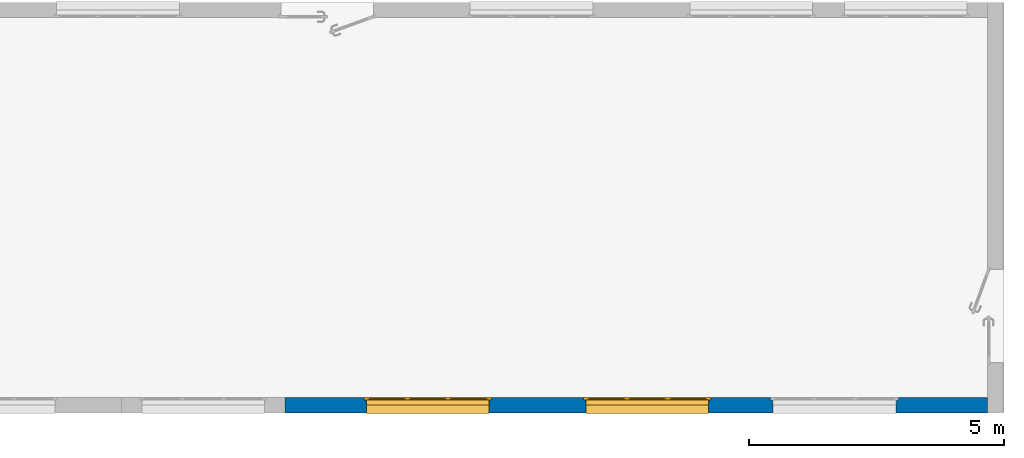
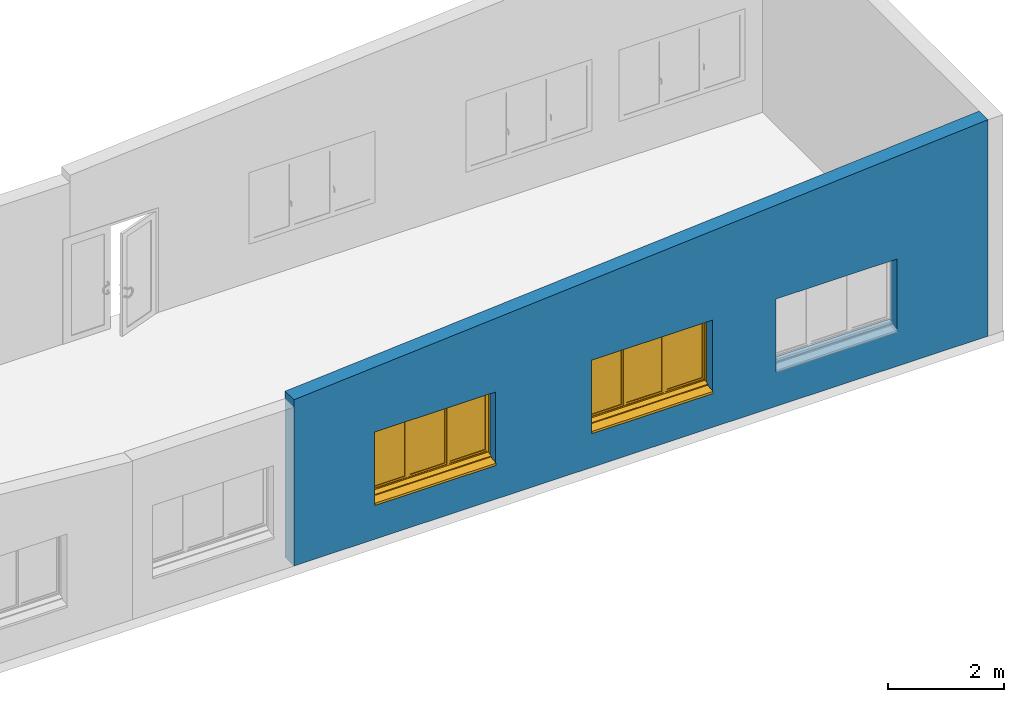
# One storey, part 5 of 8: 2 windows, 1 wall, 3 openings.
"""IFC2X3 building model written with IfcOpenShell, lengths in metres."""

import ifcopenshell
import ifcopenshell.guid

model = None  # the IFC model being written
_history = None  # IfcOwnerHistory: only IFC2X3 demands one
_inside = {}  # id of a spatial element -> (the spatial element, [elements in it])
_under = {}  # id of a project, library or spatial element -> (it, [spatial elements below it])
_declared = {}  # id of a project -> (the project, [libraries it declares])
_typed = {}  # id of a type object -> (the type object, [elements of that type])
_made_of = {}  # id of a material, layer set ... -> (it, [elements and type objects made of it])


def new_model(schema):
    """Start an empty IFC model of exactly this schema.

    Asked for "IFC4X3", IfcOpenShell would pick the latest addendum, in which some entities
    have other attributes; the version numbers below select the first issue.
    IFC2X3 requires an IfcOwnerHistory on every rooted entity: one is made here for all.
    """
    global model, _history
    if schema == "IFC4X3":
        model = ifcopenshell.file(schema_version=(4, 3, 0, 0))
    else:
        model = ifcopenshell.file(schema=schema)
    _inside.clear()
    _under.clear()
    _declared.clear()
    _typed.clear()
    _made_of.clear()
    _history = None
    if model.schema == "IFC2X3":
        org = make("IfcOrganization", Name="unknown")
        user = make(
            "IfcPersonAndOrganization",
            ThePerson=make("IfcPerson", FamilyName="unknown"),
            TheOrganization=org,
        )
        app = make(
            "IfcApplication",
            ApplicationDeveloper=org,
            Version="unknown",
            ApplicationFullName="unknown",
            ApplicationIdentifier="unknown",
        )
        _history = make(
            "IfcOwnerHistory",
            OwningUser=user,
            OwningApplication=app,
            ChangeAction="ADDED",
            CreationDate=0,
        )
    return model


def make(cls, **values):
    """One entity of the class cls with the attributes given. An attribute that is None is left unset."""
    return model.create_entity(
        cls, **{name: value for name, value in values.items() if value is not None}
    )


def entity(cls, *values):
    """Any entity or typed value of the class cls, its attributes in the order of the schema. None: left unset."""
    e = model.create_entity(cls)
    for i, value in enumerate(values):
        if value is not None:
            e[i] = value
    return e


def rooted(cls, **values):
    """An entity with a GlobalId (a new one), such as an element, a storey or a relation."""
    return make(cls, GlobalId=ifcopenshell.guid.new(), OwnerHistory=_history, **values)


def si_unit(unit_type, name, prefix=None):
    """IfcSIUnit, for example si_unit("LENGTHUNIT", "METRE", prefix="MILLI")."""
    return make("IfcSIUnit", UnitType=unit_type, Prefix=prefix, Name=name)


def converted_unit(unit_type, name, factor, base, dimensions=None, offset=None):
    """IfcConversionBasedUnit, such as the inch: factor (a typed value) times the base unit."""
    return make(
        "IfcConversionBasedUnit"
        if offset is None
        else "IfcConversionBasedUnitWithOffset",
        ConversionOffset=offset,
        Dimensions=None
        if dimensions is None
        else entity("IfcDimensionalExponents", *dimensions),
        UnitType=unit_type,
        Name=name,
        ConversionFactor=make(
            "IfcMeasureWithUnit", ValueComponent=factor, UnitComponent=base
        ),
    )


def derived_unit(unit_type, elements):
    """IfcDerivedUnit: a product of units, each with its exponent."""
    return make(
        "IfcDerivedUnit",
        Elements=[
            make("IfcDerivedUnitElement", Unit=unit, Exponent=power)
            for unit, power in elements
        ],
        UnitType=unit_type,
    )


def assignment(units):
    """IfcUnitAssignment: the units of a project."""
    return None if units is None else make("IfcUnitAssignment", Units=units)


def point(xyz):
    """IfcCartesianPoint."""
    return None if xyz is None else make("IfcCartesianPoint", Coordinates=xyz)


def direction(xyz):
    """IfcDirection."""
    return None if xyz is None else make("IfcDirection", DirectionRatios=xyz)


def frame(location, z_axis=None, x_axis=None):
    """IfcAxis2Placement3D, a coordinate frame: its origin and axes. An axis left out is left unset."""
    return make(
        "IfcAxis2Placement3D",
        Location=point(location),
        Axis=direction(z_axis),
        RefDirection=direction(x_axis),
    )


def frame_2d(location, x_axis=None):
    """IfcAxis2Placement2D, a coordinate frame in the plane: its origin and x axis."""
    return make(
        "IfcAxis2Placement2D", Location=point(location), RefDirection=direction(x_axis)
    )


def origin():
    """The frame at (0, 0, 0) with its axes left unset."""
    return frame((0.0, 0.0, 0.0))


def place(relative_to, where):
    """IfcLocalPlacement: puts the frame where relative to a parent placement (None: the world)."""
    return make(
        "IfcLocalPlacement", PlacementRelTo=relative_to, RelativePlacement=where
    )


def context(
    kind, dimensions, precision=None, world=None, true_north=None, identifier=None
):
    """IfcGeometricRepresentationContext, for example the 3D "Model" context."""
    return make(
        "IfcGeometricRepresentationContext",
        ContextIdentifier=identifier,
        ContextType=kind,
        CoordinateSpaceDimension=dimensions,
        Precision=precision,
        WorldCoordinateSystem=world,
        TrueNorth=true_north,
    )


def subcontext(parent, identifier, kind, view, scale=None):
    """IfcGeometricRepresentationSubContext, for example "Body" below "Model"."""
    return make(
        "IfcGeometricRepresentationSubContext",
        ContextIdentifier=identifier,
        ContextType=kind,
        ParentContext=parent,
        TargetScale=scale,
        TargetView=view,
    )


def project(units=None, contexts=None):
    """IfcProject with its units and contexts."""
    return rooted(
        "IfcProject",
        Name="project",
        RepresentationContexts=contexts,
        UnitsInContext=assignment(units),
    )


def spatial(cls, under=None, at=None, **own):
    """A site, building, storey or space (cls), placed at a placement, below another one or the project."""
    s = rooted(cls, ObjectPlacement=at, **own)
    if under is not None:
        _under.setdefault(under.id(), (under, []))[1].append(s)
    return s


def polyline(points):
    """IfcPolyline through the points."""
    return make("IfcPolyline", Points=[point(p) for p in points])


def profile(cls, at=None, kind="AREA", **sizes):
    """A parametric profile (cls). Its sizes go by their IFC names, for example OverallWidth=200.0."""
    return make(cls, ProfileType=kind, Position=at, **sizes)


def rectangle(**sizes):
    """IfcRectangleProfileDef."""
    return profile("IfcRectangleProfileDef", **sizes)


def extrude(swept, where, along, depth):
    """IfcExtrudedAreaSolid: the profile swept, set in the frame where, extruded along a direction by depth."""
    return make(
        "IfcExtrudedAreaSolid",
        SweptArea=swept,
        Position=where,
        ExtrudedDirection=direction(along),
        Depth=depth,
    )


def clip(a, b, op="DIFFERENCE"):
    """IfcBooleanClippingResult: the solid a cut by the half space b."""
    return make(
        "IfcBooleanClippingResult", Operator=op, FirstOperand=a, SecondOperand=b
    )


def bounded_halfspace(plane, agree, where, boundary):
    """IfcPolygonalBoundedHalfSpace: a half space limited to a polygon's prism."""
    return make(
        "IfcPolygonalBoundedHalfSpace",
        BaseSurface=make("IfcPlane", Position=plane),
        AgreementFlag=agree,
        Position=where,
        PolygonalBoundary=boundary,
    )


def faces_of(points, faces, orient=None, outer=None):
    """IfcFace entities. A face is a list of loops; a loop is a list of indices into points, from 0.

    orient and outer hold one flag for each loop. By default every Orientation is true, the
    first loop of a face is its IfcFaceOuterBound and the others are IfcFaceBound.
    """
    made = []
    for i, loops in enumerate(faces):
        bounds = []
        for j, loop in enumerate(loops):
            is_outer = j == 0 if outer is None else outer[i][j]
            bounds.append(
                make(
                    "IfcFaceOuterBound" if is_outer else "IfcFaceBound",
                    Bound=make("IfcPolyLoop", Polygon=[points[k] for k in loop]),
                    Orientation=True if orient is None else orient[i][j],
                )
            )
        made.append(make("IfcFace", Bounds=bounds))
    return made


def faceted_brep(points, faces, orient=None, outer=None, voids=None):
    """IfcFacetedBrep: a solid bounded by flat faces; with voids (closed shells), ...WithVoids."""
    shared = [point(p) for p in points]
    hull = make("IfcClosedShell", CfsFaces=faces_of(shared, faces, orient, outer))
    if voids is None:
        return make("IfcFacetedBrep", Outer=hull)
    return make(
        "IfcFacetedBrepWithVoids",
        Outer=hull,
        Voids=[
            make(cls, CfsFaces=faces_of(shared, fs, o, b)) for cls, fs, o, b in voids
        ],
    )


def shape(context_of_items, identifier, shape_type, items):
    """IfcShapeRepresentation: the items that make up one representation, for example the "Body"."""
    return make(
        "IfcShapeRepresentation",
        ContextOfItems=context_of_items,
        RepresentationIdentifier=identifier,
        RepresentationType=shape_type,
        Items=items,
    )


def source(mapping_origin, context_of_items, identifier, shape_type, items):
    """IfcRepresentationMap: a shape defined once, which mapped items show again and again."""
    return make(
        "IfcRepresentationMap",
        MappingOrigin=mapping_origin,
        MappedRepresentation=shape(context_of_items, identifier, shape_type, items),
    )


def transform(
    local_origin,
    x_axis=None,
    y_axis=None,
    z_axis=None,
    scale=None,
    scale2=None,
    scale3=None,
    uniform=True,
):
    """IfcCartesianTransformationOperator3D, or its non-uniform kind. x_axis, y_axis, z_axis: its Axis1, 2, 3."""
    if uniform:
        return make(
            "IfcCartesianTransformationOperator3D",
            Axis1=direction(x_axis),
            Axis2=direction(y_axis),
            LocalOrigin=point(local_origin),
            Scale=scale,
            Axis3=direction(z_axis),
        )
    return make(
        "IfcCartesianTransformationOperator3DnonUniform",
        Axis1=direction(x_axis),
        Axis2=direction(y_axis),
        LocalOrigin=point(local_origin),
        Scale=scale,
        Axis3=direction(z_axis),
        Scale2=scale2,
        Scale3=scale3,
    )


def mapped(mapping_source, mapping_target):
    """IfcMappedItem: shows the shape of a source again, moved by a transform."""
    return make(
        "IfcMappedItem", MappingSource=mapping_source, MappingTarget=mapping_target
    )


def material(Name=None, Category=None):
    """IfcMaterial."""
    return make("IfcMaterial", Name=Name, Category=Category)


def material_list(materials):
    """IfcMaterialList."""
    return make("IfcMaterialList", Materials=materials)


def layer(
    of_material, thickness, ventilated=None, Name=None, Category=None, Priority=None
):
    """IfcMaterialLayer: one layer of a wall or slab, of a material (None: an air gap)."""
    return make(
        "IfcMaterialLayer",
        Material=of_material,
        LayerThickness=thickness,
        IsVentilated=ventilated,
        Name=Name,
        Category=Category,
        Priority=Priority,
    )


def layer_set(layers, Name=None):
    """IfcMaterialLayerSet."""
    return make("IfcMaterialLayerSet", MaterialLayers=layers, LayerSetName=Name)


def layer_usage(for_layer_set, set_direction, sense, offset, extent=None):
    """IfcMaterialLayerSetUsage: how a layer set lies in its element."""
    return make(
        "IfcMaterialLayerSetUsage",
        ForLayerSet=for_layer_set,
        LayerSetDirection=set_direction,
        DirectionSense=sense,
        OffsetFromReferenceLine=offset,
        ReferenceExtent=extent,
    )


def made_of(thing, what):
    """Note that an element or type object is made of a material, layer set ...; save() writes the relation."""
    if what is not None:
        _made_of.setdefault(what.id(), (what, []))[1].append(thing)
    return thing


def type_object(cls, material=None, **own):
    """A type object (cls), such as IfcWallType, which elements share."""
    return made_of(rooted(cls, **own), material)


def type_shapes(of_type, sources):
    """Give a type object the sources (RepresentationMaps) that its elements show as mapped items."""
    of_type.RepresentationMaps = sources


def element(
    cls,
    number,
    at=None,
    inside=None,
    cuts=None,
    type_object=None,
    material=None,
    context=None,
    identifier="Body",
    shape_type=None,
    held_by="IfcProductDefinitionShape",
    body=None,
    shapes=None,
    **own,
):
    """One element of the class cls, such as IfcWall. Its Tag is "e" and its number.

    at: its placement. inside: the storey or other place that contains it. cuts: it is an
    opening in that element (IfcRelVoidsElement). A single representation is given by context,
    identifier, shape_type and body (its items); several are given by shapes. held_by: the class
    of the entity that holds the representations. save() writes the other relations.
    """
    e = rooted(cls, Tag="e%d" % number, ObjectPlacement=at, **own)
    if body is not None:
        shapes = [shape(context, identifier, shape_type, body)]
    if shapes is not None:
        e.Representation = make(held_by, Representations=shapes)
    if inside is not None:
        _inside.setdefault(inside.id(), (inside, []))[1].append(e)
    if cuts is not None:
        rooted(
            "IfcRelVoidsElement", RelatingBuildingElement=cuts, RelatedOpeningElement=e
        )
    if type_object is not None:
        _typed.setdefault(type_object.id(), (type_object, []))[1].append(e)
    return made_of(e, material)


def fill(opening, filler):
    """IfcRelFillsElement: the door or window that sits in an opening."""
    return rooted(
        "IfcRelFillsElement",
        RelatingOpeningElement=opening,
        RelatedBuildingElement=filler,
    )


def aggregate(whole, parts):
    """IfcRelAggregates: a whole, such as a stair, and the parts it consists of."""
    return rooted("IfcRelAggregates", RelatingObject=whole, RelatedObjects=parts)


def save(model, path):
    """Write the relations noted so far, then the file.

    IfcRelAggregates (storeys below a building ...), IfcRelContainedInSpatialStructure (elements
    in a storey), IfcRelDefinesByType, IfcRelAssociatesMaterial and IfcRelDeclares: one each for
    every whole, place, type object, material and project.
    """
    for whole, parts in _under.values():
        aggregate(whole, parts)
    for where, things in _inside.values():
        rooted(
            "IfcRelContainedInSpatialStructure",
            RelatedElements=things,
            RelatingStructure=where,
        )
    for kind, things in _typed.values():
        rooted("IfcRelDefinesByType", RelatedObjects=things, RelatingType=kind)
    for what, things in _made_of.values():
        rooted("IfcRelAssociatesMaterial", RelatedObjects=things, RelatingMaterial=what)
    for by, libraries in _declared.values():
        rooted("IfcRelDeclares", RelatingContext=by, RelatedDefinitions=libraries)
    model.write(path)


model = new_model("IFC2X3")

# Units and contexts
model_context = context("Model", 3, precision=1e-05, world=origin(), true_north=direction((6.12303176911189e-17, 1.0)))
body_context = subcontext(model_context, "Body", "Model", "MODEL_VIEW")
ifc_project = project(units=[si_unit("LENGTHUNIT", "METRE"), si_unit("AREAUNIT", "SQUARE_METRE"), si_unit("VOLUMEUNIT", "CUBIC_METRE"), converted_unit("PLANEANGLEUNIT", "DEGREE", entity("IfcRatioMeasure", 0.0174532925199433), si_unit("PLANEANGLEUNIT", "RADIAN"), dimensions=[0, 0, 0, 0, 0, 0, 0]), si_unit("MASSUNIT", "GRAM", prefix="KILO"), derived_unit("MASSDENSITYUNIT", [(si_unit("MASSUNIT", "GRAM", prefix="KILO"), 1), (si_unit("LENGTHUNIT", "METRE"), -3)]), si_unit("TIMEUNIT", "SECOND"), si_unit("FREQUENCYUNIT", "HERTZ"), si_unit("THERMODYNAMICTEMPERATUREUNIT", "DEGREE_CELSIUS"), derived_unit("THERMALTRANSMITTANCEUNIT", [(si_unit("MASSUNIT", "GRAM", prefix="KILO"), 1), (si_unit("THERMODYNAMICTEMPERATUREUNIT", "KELVIN"), -1), (si_unit("TIMEUNIT", "SECOND"), -3)]), derived_unit("VOLUMETRICFLOWRATEUNIT", [(si_unit("LENGTHUNIT", "METRE"), 3), (si_unit("TIMEUNIT", "SECOND"), -1)]), si_unit("ELECTRICCURRENTUNIT", "AMPERE"), si_unit("ELECTRICVOLTAGEUNIT", "VOLT"), si_unit("POWERUNIT", "WATT"), si_unit("FORCEUNIT", "NEWTON", prefix="KILO"), si_unit("ILLUMINANCEUNIT", "LUX"), si_unit("LUMINOUSFLUXUNIT", "LUMEN"), si_unit("LUMINOUSINTENSITYUNIT", "CANDELA"), derived_unit("USERDEFINED", [(si_unit("MASSUNIT", "GRAM", prefix="KILO"), -1), (si_unit("LENGTHUNIT", "METRE"), -2), (si_unit("TIMEUNIT", "SECOND"), 3), (si_unit("LUMINOUSFLUXUNIT", "LUMEN"), 1)]), derived_unit("LINEARVELOCITYUNIT", [(si_unit("LENGTHUNIT", "METRE"), 1), (si_unit("TIMEUNIT", "SECOND"), -1)]), si_unit("PRESSUREUNIT", "PASCAL"), derived_unit("USERDEFINED", [(si_unit("LENGTHUNIT", "METRE"), -2), (si_unit("MASSUNIT", "GRAM", prefix="KILO"), 1), (si_unit("TIMEUNIT", "SECOND"), -2)])], contexts=[model_context])

# Site, building, storey
site_placement = place(None, origin())
site = spatial("IfcSite", under=ifc_project, at=site_placement, Name="Default", CompositionType="ELEMENT")
building_placement = place(site_placement, origin())
building = spatial("IfcBuilding", under=site, at=building_placement, CompositionType="ELEMENT")
storey_placement = place(building_placement, frame((0.0, 0.0, 3.3)))
storey = spatial("IfcBuildingStorey", under=building, at=storey_placement, Name="Niveau 1", CompositionType="ELEMENT", Elevation=3.3)

# Wall, openings, windows
ifc_material_1 = material(Name="Maçonnerie - Voile BA")
ifc_layer_1 = layer(ifc_material_1, 0.18)
ifc_material_2 = material(Name="Maçonnerie - Isolant")
ifc_layer_2 = layer(ifc_material_2, 0.12)
ifc_layer_set = layer_set([ifc_layer_1, ifc_layer_2], Name="Mur de base:Ext. Voile BA 18 + Isolant 12")
ifc_layer_usage = layer_usage(ifc_layer_set, "AXIS2", "NEGATIVE", 0.15)
wall_type = type_object("IfcWallType", Name="Mur de base:Ext. Voile BA 18 + Isolant 12", PredefinedType="STANDARD", material=ifc_layer_set)
wall_placement = place(storey_placement, frame((12.280485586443, -4.88088141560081, 0.0), z_axis=(0.0, 0.0, 1.0), x_axis=(-1.0, 0.0, 0.0)))
wall = element("IfcWallStandardCase", 1, at=wall_placement, inside=storey, type_object=wall_type, material=ifc_layer_usage, Name="Mur de base:Ext. Voile BA 18 + Isolant 12", ObjectType="Mur de base:Ext. Voile BA 18 + Isolant 12", context=body_context, shape_type="Clipping", body=[
    clip(extrude(rectangle(XDim=13.7658292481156, YDim=0.3, at=frame_2d((6.88291462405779, -6.93889390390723e-17), x_axis=(-1.0, 0.0))), origin(), (0.0, 0.0, 1.0), 4.54000000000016), bounded_halfspace(frame((0.0, -0.150000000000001, 4.54000000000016), z_axis=(-0.0763909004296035, 0.0, -0.997077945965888), x_axis=(-0.997077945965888, 0.0, 0.0763909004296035)), True, frame((0.0, -0.150000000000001, 4.54000000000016)), polyline([(0.0, 0.0), (13.7658292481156, 0.0), (13.7658292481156, 0.3), (0.0, 0.3), (0.0, 0.0)]))),
])
opening_1_placement = place(wall_placement, frame((12.2158292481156, 0.499999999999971, 0.720000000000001), z_axis=(0.0, 0.0, 1.0), x_axis=(-1.0, 0.0, 0.0)))
opening_1 = element("IfcOpeningElement", 2, at=opening_1_placement, cuts=wall, Name="Mur de base:Ext. Voile BA 18 + Isolant 12", ObjectType="Opening", context=body_context, shape_type="Brep", body=[
    faceted_brep([(2.45, 0.57000000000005, 0.0800000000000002), (2.45, 0.549999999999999, 0.0800000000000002), (2.45, 0.549999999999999, 1.53), (2.45, 0.0, 1.53), (2.45, 0.0, 0.0), (2.45, 0.57000000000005, 0.0), (0.0500000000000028, 1.0, 0.0800000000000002), (0.0500000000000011, 0.650000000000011, 0.0800000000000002), (0.0500000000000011, 0.650000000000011, 1.53), (0.0500000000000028, 1.0, 1.53), (2.45, 1.0, 0.0800000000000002), (2.45, 0.650000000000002, 0.0800000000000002), (2.5, 0.650000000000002, 0.0800000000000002), (2.5, 0.600000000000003, 0.0800000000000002), (2.46, 0.600000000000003, 0.0800000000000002), (2.46, 0.549999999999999, 0.0800000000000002), (0.0500000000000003, 0.570000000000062, 0.0800000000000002), (0.0500000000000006, 0.550000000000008, 0.0800000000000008), (0.0399999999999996, 0.550000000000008, 0.0800000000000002), (0.0399999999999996, 0.600000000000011, 0.0800000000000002), (0.0, 0.600000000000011, 0.0800000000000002), (0.0, 0.65000000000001, 0.0800000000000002), (2.45, 1.0, 1.53), (0.0500000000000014, 0.550000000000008, 1.53), (0.049999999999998, 0.0, 1.53), (0.049999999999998, 0.0, 0.0), (0.0500000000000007, 0.570000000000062, 0.0), (2.5, 0.650000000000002, 1.58), (2.5, 0.600000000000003, 1.58), (0.0, 0.600000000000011, 1.58), (0.0400000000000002, 0.600000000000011, 1.54), (2.46, 0.600000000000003, 1.54), (2.46, 0.549999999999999, 1.54), (0.0399999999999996, 0.550000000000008, 1.54), (2.45, 0.650000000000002, 1.53), (0.0, 0.650000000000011, 1.58)], [[[0, 1, 2, 3, 4, 5]], [[6, 7, 8, 9]], [[10, 11, 12, 13, 14, 15, 1, 0, 16, 17, 18, 19, 20, 21, 7, 6]], [[10, 6, 9, 22]], [[3, 2, 23, 24]], [[3, 24, 25, 4]], [[4, 25, 26, 5]], [[5, 26, 16, 0]], [[12, 27, 28, 13]], [[13, 28, 29, 20, 19, 30, 31, 14]], [[14, 31, 32, 15]], [[15, 32, 33, 18, 17, 23, 2, 1]], [[11, 34, 8, 7, 21, 35, 27, 12]], [[27, 35, 29, 28]], [[30, 33, 32, 31]], [[29, 35, 21, 20]], [[19, 18, 33, 30]], [[9, 8, 34, 22]], [[24, 23, 17, 16, 26, 25]], [[22, 34, 11, 10]]]),
])
opening_2_placement = place(wall_placement, frame((7.91582924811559, 0.499999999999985, 0.720000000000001), z_axis=(0.0, 0.0, 1.0), x_axis=(-1.0, 0.0, 0.0)))
opening_2 = element("IfcOpeningElement", 3, at=opening_2_placement, cuts=wall, Name="Mur de base:Ext. Voile BA 18 + Isolant 12", ObjectType="Opening", context=body_context, shape_type="Brep", body=[
    faceted_brep([(2.45, 0.57000000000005, 0.0800000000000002), (2.45, 0.549999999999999, 0.0800000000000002), (2.45, 0.549999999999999, 1.53), (2.45, 0.0, 1.53), (2.45, 0.0, 0.0), (2.45, 0.57000000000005, 0.0), (0.0500000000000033, 1.0, 0.0800000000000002), (0.0500000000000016, 0.650000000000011, 0.0800000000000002), (0.0500000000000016, 0.650000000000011, 1.53), (0.0500000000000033, 1.0, 1.53), (2.45, 1.0, 0.0800000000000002), (2.45, 0.650000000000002, 0.0800000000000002), (2.5, 0.650000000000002, 0.0800000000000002), (2.5, 0.600000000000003, 0.0800000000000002), (2.46, 0.600000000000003, 0.0800000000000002), (2.46, 0.549999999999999, 0.0800000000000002), (0.0500000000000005, 0.570000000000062, 0.0800000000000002), (0.0500000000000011, 0.550000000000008, 0.0800000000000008), (0.0400000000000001, 0.550000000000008, 0.0800000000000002), (0.0400000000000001, 0.600000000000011, 0.0800000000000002), (0.0, 0.600000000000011, 0.0800000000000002), (0.0, 0.65000000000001, 0.0800000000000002), (2.45, 1.0, 1.53), (0.0500000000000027, 0.550000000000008, 1.53), (0.0499999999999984, 0.0, 1.53), (0.0499999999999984, 0.0, 0.0), (0.0500000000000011, 0.570000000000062, 0.0), (2.5, 0.650000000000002, 1.58), (2.5, 0.600000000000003, 1.58), (0.0, 0.600000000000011, 1.58), (0.0400000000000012, 0.600000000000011, 1.54), (2.46, 0.600000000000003, 1.54), (2.46, 0.549999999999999, 1.54), (0.0400000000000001, 0.550000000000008, 1.54), (2.45, 0.650000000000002, 1.53), (0.0, 0.650000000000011, 1.58)], [[[0, 1, 2, 3, 4, 5]], [[6, 7, 8, 9]], [[10, 11, 12, 13, 14, 15, 1, 0, 16, 17, 18, 19, 20, 21, 7, 6]], [[10, 6, 9, 22]], [[3, 2, 23, 24]], [[3, 24, 25, 4]], [[4, 25, 26, 5]], [[5, 26, 16, 0]], [[12, 27, 28, 13]], [[13, 28, 29, 20, 19, 30, 31, 14]], [[14, 31, 32, 15]], [[15, 32, 33, 18, 17, 23, 2, 1]], [[11, 34, 8, 7, 21, 35, 27, 12]], [[27, 35, 29, 28]], [[30, 33, 32, 31]], [[29, 35, 21, 20]], [[19, 18, 33, 30]], [[9, 8, 34, 22]], [[24, 23, 17, 16, 26, 25]], [[22, 34, 11, 10]]]),
])
opening_3_placement = place(wall_placement, frame((4.25, 0.499999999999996, 0.720000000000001), z_axis=(0.0, 0.0, 1.0), x_axis=(-1.0, 0.0, 0.0)))
element("IfcOpeningElement", 4, at=opening_3_placement, cuts=wall, Name="Mur de base:Ext. Voile BA 18 + Isolant 12", ObjectType="Opening", context=body_context, shape_type="Brep", body=[
    faceted_brep([(2.45, 0.57000000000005, 0.0800000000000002), (2.45, 0.549999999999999, 0.0800000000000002), (2.45, 0.549999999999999, 1.53), (2.45, 0.0, 1.53), (2.45, 0.0, 0.0), (2.45, 0.57000000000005, 0.0), (0.0500000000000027, 1.0, 0.0800000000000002), (0.0500000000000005, 0.650000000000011, 0.0800000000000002), (0.0500000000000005, 0.650000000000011, 1.53), (0.0500000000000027, 1.0, 1.53), (2.45, 1.0, 0.0800000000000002), (2.45, 0.650000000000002, 0.0800000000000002), (2.5, 0.650000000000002, 0.0800000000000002), (2.5, 0.600000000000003, 0.0800000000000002), (2.46, 0.600000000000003, 0.0800000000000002), (2.46, 0.549999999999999, 0.0800000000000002), (0.0500000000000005, 0.570000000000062, 0.0800000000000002), (0.0500000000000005, 0.550000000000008, 0.0800000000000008), (0.0399999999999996, 0.550000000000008, 0.0800000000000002), (0.0399999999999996, 0.600000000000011, 0.0800000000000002), (0.0, 0.600000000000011, 0.0800000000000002), (0.0, 0.65000000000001, 0.0800000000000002), (2.45, 1.0, 1.53), (0.0500000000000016, 0.550000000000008, 1.53), (0.0499999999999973, 0.0, 1.53), (0.0499999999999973, 0.0, 0.0), (0.0500000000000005, 0.570000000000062, 0.0), (2.5, 0.650000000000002, 1.58), (2.5, 0.600000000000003, 1.58), (0.0, 0.600000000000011, 1.58), (0.0399999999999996, 0.600000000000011, 1.54), (2.46, 0.600000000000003, 1.54), (2.46, 0.549999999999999, 1.54), (0.0399999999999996, 0.550000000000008, 1.54), (2.45, 0.650000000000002, 1.53), (0.0, 0.650000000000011, 1.58)], [[[0, 1, 2, 3, 4, 5]], [[6, 7, 8, 9]], [[10, 11, 12, 13, 14, 15, 1, 0, 16, 17, 18, 19, 20, 21, 7, 6]], [[10, 6, 9, 22]], [[3, 2, 23, 24]], [[3, 24, 25, 4]], [[4, 25, 26, 5]], [[5, 26, 16, 0]], [[12, 27, 28, 13]], [[13, 28, 29, 20, 19, 30, 31, 14]], [[14, 31, 32, 15]], [[15, 32, 33, 18, 17, 23, 2, 1]], [[11, 34, 8, 7, 21, 35, 27, 12]], [[27, 35, 29, 28]], [[30, 33, 32, 31]], [[29, 35, 21, 20]], [[19, 18, 33, 30]], [[9, 8, 34, 22]], [[24, 23, 17, 16, 26, 25]], [[22, 34, 11, 10]]]),
])
ifc_material_3 = material(Name="Fenêtre - Poignée")
ifc_material_4 = material(Name="Fenêtre - Appui")
ifc_material_5 = material(Name="Fenêtre - Cadre")
ifc_material_6 = material(Name="Fenêtre - Vitrage")
ifc_material_list_1 = material_list([ifc_material_3, ifc_material_4, ifc_material_5, ifc_material_6])
ifc_material_list_2 = material_list([ifc_material_3, ifc_material_4, ifc_material_5, ifc_material_6])
window_style = type_object("IfcWindowStyle", Name="2.40m x 1.45m - Appui Béton", ConstructionType="NOTDEFINED", OperationType="TRIPLE_PANEL_VERTICAL", ParameterTakesPrecedence=False, Sizeable=False, material=ifc_material_list_2)
shared_shape = source(origin(), body_context, "Body", "Brep", [
    faceted_brep([(0.83064600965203, -0.656000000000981, 0.702033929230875), (0.83203392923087, -0.656000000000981, 0.700646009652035), (0.83203392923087, -0.656000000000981, 0.68933230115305), (0.830667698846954, -0.656000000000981, 0.687966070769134), (0.819332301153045, -0.656000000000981, 0.687966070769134), (0.817966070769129, -0.656000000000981, 0.68933230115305), (0.817966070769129, -0.656000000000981, 0.700646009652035), (0.819353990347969, -0.656000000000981, 0.702033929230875), (0.83064600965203, -0.66891354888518, 0.702033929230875), (0.83203392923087, -0.668338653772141, 0.700646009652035), (0.83203392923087, -0.681646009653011, 0.687338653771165), (0.83203392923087, -0.681646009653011, 0.600000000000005), (0.83203392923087, -0.670332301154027, 0.600000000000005), (0.83203392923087, -0.670332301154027, 0.68265236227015), (0.83203392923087, -0.663652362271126, 0.68933230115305), (0.830667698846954, -0.663086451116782, 0.687966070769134), (0.819332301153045, -0.663086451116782, 0.687966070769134), (0.817966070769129, -0.663652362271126, 0.68933230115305), (0.817966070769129, -0.670332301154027, 0.68265236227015), (0.817966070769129, -0.670332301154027, 0.600000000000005), (0.817966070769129, -0.681646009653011, 0.600000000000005), (0.817966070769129, -0.681646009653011, 0.687338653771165), (0.817966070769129, -0.668338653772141, 0.700646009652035), (0.81935399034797, -0.66891354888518, 0.702033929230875), (0.83064600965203, -0.683033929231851, 0.687913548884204), (0.830667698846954, -0.668966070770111, 0.682086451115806), (0.819332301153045, -0.668966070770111, 0.682086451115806), (0.819353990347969, -0.683033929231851, 0.687913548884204), (0.83064600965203, -0.683033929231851, 0.600000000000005), (0.819353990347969, -0.683033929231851, 0.600000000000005), (0.819332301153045, -0.668966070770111, 0.600000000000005), (0.830667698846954, -0.668966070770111, 0.600000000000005)], [[[0, 1, 2, 3, 4, 5, 6, 7]], [[1, 0, 8, 9]], [[2, 1, 9, 10, 11, 12, 13, 14]], [[3, 2, 14, 15]], [[4, 3, 15, 16]], [[5, 4, 16, 17]], [[6, 5, 17, 18, 19, 20, 21, 22]], [[7, 6, 22, 23]], [[0, 7, 23, 8]], [[9, 8, 24, 10]], [[15, 14, 13, 25]], [[16, 15, 25, 26]], [[17, 16, 26, 18]], [[23, 22, 21, 27]], [[8, 23, 27, 24]], [[28, 29, 20, 19, 30, 31, 12, 11]], [[10, 24, 28, 11]], [[25, 13, 12, 31]], [[26, 25, 31, 30]], [[18, 26, 30, 19]], [[27, 21, 20, 29]], [[24, 27, 29, 28]]]),
    faceted_brep([(0.832000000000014, -0.656000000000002, 0.720000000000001), (0.817999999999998, -0.656000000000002, 0.720000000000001), (0.812999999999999, -0.656000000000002, 0.715000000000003), (0.812999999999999, -0.656000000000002, 0.644999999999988), (0.817999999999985, -0.656000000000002, 0.640000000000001), (0.832000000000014, -0.656000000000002, 0.640000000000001), (0.837, -0.656000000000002, 0.644999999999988), (0.837, -0.656000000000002, 0.715000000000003), (0.832000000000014, -0.650000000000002, 0.720000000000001), (0.837, -0.650000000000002, 0.715000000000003), (0.837, -0.650000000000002, 0.644999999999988), (0.832000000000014, -0.650000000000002, 0.640000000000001), (0.817999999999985, -0.650000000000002, 0.640000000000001), (0.812999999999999, -0.650000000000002, 0.644999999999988), (0.812999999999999, -0.650000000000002, 0.715000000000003), (0.817999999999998, -0.650000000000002, 0.720000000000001)], [[[0, 1, 2, 3, 4, 5, 6, 7]], [[8, 9, 10, 11, 12, 13, 14, 15]], [[1, 0, 8, 15]], [[2, 1, 15, 14]], [[3, 2, 14, 13]], [[4, 3, 13, 12]], [[5, 4, 12, 11]], [[6, 5, 11, 10]], [[7, 6, 10, 9]], [[0, 7, 9, 8]]]),
    faceted_brep([(1.68064600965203, -0.656000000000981, 0.702033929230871), (1.68203392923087, -0.656000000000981, 0.700646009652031), (1.68203392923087, -0.656000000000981, 0.689332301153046), (1.68066769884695, -0.656000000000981, 0.68796607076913), (1.66933230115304, -0.656000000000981, 0.68796607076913), (1.66796607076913, -0.656000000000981, 0.689332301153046), (1.66796607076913, -0.656000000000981, 0.700646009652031), (1.66935399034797, -0.656000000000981, 0.702033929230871), (1.68064600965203, -0.66891354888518, 0.702033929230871), (1.68203392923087, -0.668338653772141, 0.700646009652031), (1.68203392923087, -0.681646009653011, 0.687338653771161), (1.68203392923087, -0.681646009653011, 0.600000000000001), (1.68203392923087, -0.670332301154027, 0.600000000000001), (1.68203392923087, -0.670332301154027, 0.682652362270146), (1.68203392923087, -0.663652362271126, 0.689332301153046), (1.68066769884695, -0.663086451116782, 0.68796607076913), (1.66933230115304, -0.663086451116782, 0.68796607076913), (1.66796607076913, -0.663652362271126, 0.689332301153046), (1.66796607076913, -0.670332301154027, 0.682652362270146), (1.66796607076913, -0.670332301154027, 0.600000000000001), (1.66796607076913, -0.681646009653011, 0.600000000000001), (1.66796607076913, -0.681646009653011, 0.687338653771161), (1.66796607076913, -0.668338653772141, 0.700646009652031), (1.66935399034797, -0.66891354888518, 0.702033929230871), (1.68064600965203, -0.683033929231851, 0.6879135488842), (1.68066769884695, -0.668966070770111, 0.682086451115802), (1.66933230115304, -0.668966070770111, 0.682086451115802), (1.66935399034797, -0.683033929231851, 0.6879135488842), (1.68064600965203, -0.683033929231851, 0.600000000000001), (1.66935399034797, -0.683033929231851, 0.600000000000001), (1.66933230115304, -0.668966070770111, 0.600000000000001), (1.68066769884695, -0.668966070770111, 0.600000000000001)], [[[0, 1, 2, 3, 4, 5, 6, 7]], [[1, 0, 8, 9]], [[2, 1, 9, 10, 11, 12, 13, 14]], [[3, 2, 14, 15]], [[4, 3, 15, 16]], [[5, 4, 16, 17]], [[6, 5, 17, 18, 19, 20, 21, 22]], [[7, 6, 22, 23]], [[0, 7, 23, 8]], [[9, 8, 24, 10]], [[15, 14, 13, 25]], [[16, 15, 25, 26]], [[17, 16, 26, 18]], [[23, 22, 21, 27]], [[8, 23, 27, 24]], [[28, 29, 20, 19, 30, 31, 12, 11]], [[10, 24, 28, 11]], [[25, 13, 12, 31]], [[26, 25, 31, 30]], [[18, 26, 30, 19]], [[27, 21, 20, 29]], [[24, 27, 29, 28]]]),
    faceted_brep([(1.68200000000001, -0.656000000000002, 0.719999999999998), (1.668, -0.656000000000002, 0.719999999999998), (1.663, -0.656000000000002, 0.714999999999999), (1.663, -0.656000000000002, 0.644999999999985), (1.66799999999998, -0.656000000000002, 0.639999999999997), (1.68200000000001, -0.656000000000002, 0.639999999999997), (1.687, -0.656000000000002, 0.644999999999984), (1.687, -0.656000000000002, 0.714999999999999), (1.68200000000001, -0.650000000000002, 0.719999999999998), (1.687, -0.650000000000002, 0.714999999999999), (1.687, -0.650000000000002, 0.644999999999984), (1.68200000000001, -0.650000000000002, 0.639999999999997), (1.66799999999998, -0.650000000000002, 0.639999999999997), (1.663, -0.650000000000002, 0.644999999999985), (1.663, -0.650000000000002, 0.714999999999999), (1.668, -0.650000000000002, 0.719999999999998)], [[[0, 1, 2, 3, 4, 5, 6, 7]], [[8, 9, 10, 11, 12, 13, 14, 15]], [[1, 0, 8, 15]], [[2, 1, 15, 14]], [[3, 2, 14, 13]], [[4, 3, 13, 12]], [[5, 4, 12, 11]], [[6, 5, 11, 10]], [[7, 6, 10, 9]], [[0, 7, 9, 8]]]),
    faceted_brep([(0.050000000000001, -0.569999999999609, 0.0799999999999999), (0.0500000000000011, -0.519999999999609, 0.0799999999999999), (0.0500000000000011, -0.519999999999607, 0.0650000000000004), (0.0500000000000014, -0.334999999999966, 0.0455557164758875), (0.0500000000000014, -0.334999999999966, 0.0), (0.050000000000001, -0.569999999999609, 0.0), (2.45, -0.569999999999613, 0.0799999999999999), (2.45, -0.569999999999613, 0.0), (2.45, -0.33499999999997, 0.0), (2.45, -0.33499999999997, 0.0455557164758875), (2.45, -0.519999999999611, 0.0650000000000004), (2.45, -0.519999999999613, 0.0799999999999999)], [[[0, 1, 2, 3, 4, 5]], [[6, 7, 8, 9, 10, 11]], [[1, 0, 6, 11]], [[2, 1, 11, 10]], [[3, 2, 10, 9]], [[4, 3, 9, 8]], [[5, 4, 8, 7]], [[0, 5, 7, 6]]]),
    faceted_brep([(1.65, -0.610000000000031, 1.53), (1.65, -0.650000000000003, 1.53), (1.65, -0.650000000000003, 0.13), (1.65, -0.610000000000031, 0.13), (0.849999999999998, -0.65, 0.13), (0.849999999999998, -0.610000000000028, 0.13), (0.849999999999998, -0.65, 1.53), (0.899999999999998, -0.65, 0.18), (0.899999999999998, -0.65, 1.48), (1.6, -0.650000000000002, 1.48), (1.6, -0.650000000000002, 0.18), (0.849999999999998, -0.610000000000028, 1.53), (1.6, -0.61000000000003, 0.179999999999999), (1.6, -0.61000000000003, 1.48), (0.899999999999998, -0.610000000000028, 1.48), (0.899999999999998, -0.610000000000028, 0.18)], [[[0, 1, 2, 3]], [[3, 2, 4, 5]], [[2, 1, 6, 4], [7, 8, 9, 10]], [[5, 4, 6, 11]], [[5, 11, 0, 3], [12, 13, 14, 15]], [[9, 13, 12, 10]], [[10, 12, 15, 7]], [[7, 15, 14, 8]], [[11, 6, 1, 0]], [[8, 14, 13, 9]]]),
    faceted_brep([(0.849999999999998, -0.610000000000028, 1.53), (0.849999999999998, -0.650000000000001, 1.53), (0.849999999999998, -0.650000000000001, 0.13), (0.849999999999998, -0.610000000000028, 0.13), (0.0499999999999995, -0.649999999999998, 0.13), (0.0499999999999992, -0.610000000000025, 0.13), (0.0499999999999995, -0.649999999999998, 1.53), (0.0999999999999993, -0.649999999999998, 0.18), (0.0999999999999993, -0.649999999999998, 1.48), (0.799999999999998, -0.650000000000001, 1.48), (0.799999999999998, -0.650000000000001, 0.18), (0.0499999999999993, -0.610000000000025, 1.53), (0.799999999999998, -0.610000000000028, 0.18), (0.799999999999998, -0.610000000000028, 1.48), (0.0999999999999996, -0.610000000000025, 1.48), (0.0999999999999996, -0.610000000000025, 0.18)], [[[0, 1, 2, 3]], [[3, 2, 4, 5]], [[2, 1, 6, 4], [7, 8, 9, 10]], [[5, 4, 6, 11]], [[5, 11, 0, 3], [12, 13, 14, 15]], [[9, 13, 12, 10]], [[10, 12, 15, 7]], [[7, 15, 14, 8]], [[11, 6, 1, 0]], [[8, 14, 13, 9]]]),
    faceted_brep([(1.7, -0.624000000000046, 0.18), (1.7, -0.624000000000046, 1.48), (2.4, -0.624000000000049, 1.48), (2.4, -0.624000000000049, 0.18), (1.7, -0.636000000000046, 0.18), (1.7, -0.636000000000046, 1.48), (2.4, -0.636000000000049, 1.48), (2.4, -0.636000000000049, 0.18)], [[[0, 1, 2, 3]], [[1, 0, 4, 5]], [[3, 2, 6, 7]], [[0, 3, 7, 4]], [[2, 1, 5, 6]], [[4, 7, 6, 5]]]),
    faceted_brep([(0.799999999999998, -0.624000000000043, 0.18), (0.799999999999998, -0.624000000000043, 1.48), (0.799999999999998, -0.636000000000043, 1.48), (0.799999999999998, -0.636000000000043, 0.18), (0.0999999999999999, -0.624000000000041, 0.18), (0.0999999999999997, -0.636000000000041, 0.18), (0.0999999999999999, -0.624000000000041, 1.48), (0.0999999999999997, -0.636000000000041, 1.48)], [[[0, 1, 2, 3]], [[4, 0, 3, 5]], [[6, 4, 5, 7]], [[7, 5, 3, 2]], [[1, 6, 7, 2]], [[6, 1, 0, 4]]]),
    faceted_brep([(1.6, -0.624000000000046, 0.18), (1.6, -0.624000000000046, 1.48), (1.6, -0.636000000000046, 1.48), (1.6, -0.636000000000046, 0.18), (0.899999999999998, -0.624000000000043, 0.18), (0.899999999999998, -0.636000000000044, 0.18), (0.899999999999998, -0.624000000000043, 1.48), (0.899999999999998, -0.636000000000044, 1.48)], [[[0, 1, 2, 3]], [[4, 0, 3, 5]], [[6, 4, 5, 7]], [[1, 6, 7, 2]], [[7, 5, 3, 2]], [[6, 1, 0, 4]]]),
    faceted_brep([(1.7, -0.610000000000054, 1.48), (1.7, -0.650000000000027, 1.48), (1.7, -0.650000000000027, 0.18), (1.7, -0.610000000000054, 0.18), (2.4, -0.650000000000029, 0.18), (2.4, -0.610000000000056, 0.18), (2.4, -0.650000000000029, 1.48), (2.45, -0.65000000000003, 0.13), (2.45, -0.65000000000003, 1.53), (1.65, -0.650000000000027, 1.53), (1.65, -0.650000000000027, 0.13), (2.4, -0.610000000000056, 1.48), (1.65, -0.610000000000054, 0.13), (1.65, -0.610000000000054, 1.53), (2.45, -0.610000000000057, 1.53), (2.45, -0.610000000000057, 0.13)], [[[0, 1, 2, 3]], [[3, 2, 4, 5]], [[2, 1, 6, 4], [7, 8, 9, 10]], [[5, 4, 6, 11]], [[5, 11, 0, 3], [12, 13, 14, 15]], [[9, 13, 12, 10]], [[10, 12, 15, 7]], [[7, 15, 14, 8]], [[11, 6, 1, 0]], [[8, 14, 13, 9]]], outer=[[True], [True], [False, True], [True], [False, True], [True], [True], [True], [True], [True]]),
    faceted_brep([(0.0, -0.650000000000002, 0.0799999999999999), (0.0, -0.600000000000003, 0.0799999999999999), (0.0499999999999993, -0.600000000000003, 0.0799999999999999), (0.0499999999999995, -0.51500000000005, 0.0800000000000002), (2.45, -0.515000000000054, 0.0799999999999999), (2.45, -0.600000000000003, 0.0800000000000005), (2.5, -0.600000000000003, 0.0799999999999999), (2.5, -0.650000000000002, 0.0799999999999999), (0.0, -0.650000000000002, 1.58), (0.0, -0.600000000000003, 1.58), (2.5, -0.600000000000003, 1.58), (2.45, -0.600000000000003, 0.119376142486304), (0.0499999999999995, -0.600000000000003, 0.119376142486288), (0.0649999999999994, -0.600000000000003, 1.515), (0.0649999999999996, -0.600000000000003, 0.145), (2.435, -0.600000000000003, 0.145), (2.435, -0.600000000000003, 1.515), (0.0499999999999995, -0.50500000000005, 0.0939209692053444), (0.0499999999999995, -0.50500000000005, 0.0749999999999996), (0.0499999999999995, -0.51500000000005, 0.0749999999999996), (2.45, -0.515000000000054, 0.0749999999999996), (2.45, -0.505000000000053, 0.0749999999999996), (2.45, -0.505000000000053, 0.0939209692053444), (2.5, -0.650000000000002, 1.58), (2.45, -0.650000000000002, 1.53), (2.45, -0.650000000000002, 0.13), (0.0499999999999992, -0.65, 0.13), (0.0499999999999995, -0.650000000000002, 1.53), (0.0649999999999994, -0.610000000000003, 1.515), (0.0649999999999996, -0.610000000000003, 0.145), (2.435, -0.610000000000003, 0.145), (2.435, -0.610000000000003, 1.515), (2.45, -0.610000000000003, 1.53), (0.0499999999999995, -0.610000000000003, 1.53), (0.0499999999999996, -0.610000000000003, 0.13), (2.45, -0.610000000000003, 0.13)], [[[0, 1, 2, 3, 4, 5, 6, 7]], [[1, 0, 8, 9]], [[1, 9, 10, 6, 5, 11, 12, 2], [13, 14, 15, 16]], [[12, 17, 18, 19, 3, 2]], [[3, 19, 20, 4]], [[4, 20, 21, 22, 11, 5]], [[6, 10, 23, 7]], [[0, 7, 23, 8], [24, 25, 26, 27]], [[13, 28, 29, 14]], [[29, 30, 15, 14]], [[31, 16, 15, 30]], [[17, 12, 11, 22]], [[32, 33, 34, 35], [28, 31, 30, 29]], [[34, 33, 27, 26]], [[26, 25, 35, 34]], [[24, 32, 35, 25]], [[18, 17, 22, 21]], [[19, 18, 21, 20]], [[13, 16, 31, 28]], [[33, 32, 24, 27]], [[10, 9, 8, 23]]]),
    faceted_brep([(0.0499999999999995, -0.550000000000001, 0.0799999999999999), (0.0499999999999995, -0.600000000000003, 0.0799999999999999), (0.039999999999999, -0.600000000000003, 0.0799999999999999), (0.039999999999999, -0.550000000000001, 0.0799999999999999), (0.0499999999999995, -0.550000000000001, 1.53), (0.0499999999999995, -0.600000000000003, 1.53), (2.45, -0.600000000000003, 1.53), (2.45, -0.600000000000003, 0.0799999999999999), (2.46, -0.600000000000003, 0.0800000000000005), (2.46, -0.600000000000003, 1.54), (0.039999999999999, -0.600000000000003, 1.54), (0.039999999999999, -0.550000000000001, 1.54), (2.46, -0.550000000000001, 1.54), (2.46, -0.550000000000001, 0.0799999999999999), (2.45, -0.550000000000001, 0.0800000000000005), (2.45, -0.550000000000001, 1.53)], [[[0, 1, 2, 3]], [[1, 0, 4, 5]], [[2, 1, 5, 6, 7, 8, 9, 10]], [[3, 2, 10, 11]], [[0, 3, 11, 12, 13, 14, 15, 4]], [[6, 15, 14, 7]], [[14, 13, 8, 7]], [[12, 9, 8, 13]], [[5, 4, 15, 6]], [[11, 10, 9, 12]]]),
    faceted_brep([(1.67, -0.602000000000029, 1.515), (1.63, -0.602000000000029, 1.515), (1.63, -0.610000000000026, 1.515), (1.67, -0.610000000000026, 1.515), (1.67, -0.602000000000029, 0.145), (1.63, -0.602000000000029, 0.145), (1.63, -0.610000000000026, 0.145), (1.67, -0.610000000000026, 0.145)], [[[0, 1, 2, 3]], [[1, 0, 4, 5]], [[2, 1, 5, 6]], [[3, 2, 6, 7]], [[0, 3, 7, 4]], [[4, 7, 6, 5]]]),
    faceted_brep([(0.870000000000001, -0.602000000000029, 0.145), (0.870000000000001, -0.610000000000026, 0.145), (0.83, -0.610000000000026, 0.145), (0.83, -0.602000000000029, 0.145), (0.83, -0.602000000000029, 1.515), (0.870000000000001, -0.602000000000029, 1.515), (0.83, -0.610000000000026, 1.515), (0.870000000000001, -0.610000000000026, 1.515)], [[[0, 1, 2, 3]], [[4, 5, 0, 3]], [[6, 4, 3, 2]], [[7, 6, 2, 1]], [[5, 7, 1, 0]], [[5, 4, 6, 7]]]),
])
type_shapes(window_style, [shared_shape])
window_1_placement = place(opening_1_placement, frame((2.5, 0.0, 0.0), z_axis=(0.0, 0.0, 1.0), x_axis=(-1.0, 0.0, 0.0)))
window_1 = element("IfcWindow", 5, at=window_1_placement, inside=storey, type_object=window_style, material=ifc_material_list_1, Name="3 Vantaux - Droits:2.40m x 1.45m - Appui Béton", ObjectType="2.40m x 1.45m - Appui Béton", OverallHeight=1.58, OverallWidth=2.5, context=body_context, shape_type="MappedRepresentation", body=[
    mapped(shared_shape, transform((0.0, 0.0, 0.0), scale=1.0)),
])
fill(opening_1, window_1)
ifc_material_list_3 = material_list([ifc_material_3, ifc_material_4, ifc_material_5, ifc_material_6])
window_2_placement = place(opening_2_placement, frame((2.5, 0.0, 0.0), z_axis=(0.0, 0.0, 1.0), x_axis=(-1.0, 0.0, 0.0)))
window_2 = element("IfcWindow", 6, at=window_2_placement, inside=storey, type_object=window_style, material=ifc_material_list_3, Name="3 Vantaux - Droits:2.40m x 1.45m - Appui Béton", ObjectType="2.40m x 1.45m - Appui Béton", OverallHeight=1.58, OverallWidth=2.5, context=body_context, shape_type="MappedRepresentation", body=[
    mapped(shared_shape, transform((0.0, 0.0, 0.0), scale=1.0)),
])
fill(opening_2, window_2)

save(model, "model.ifc")
